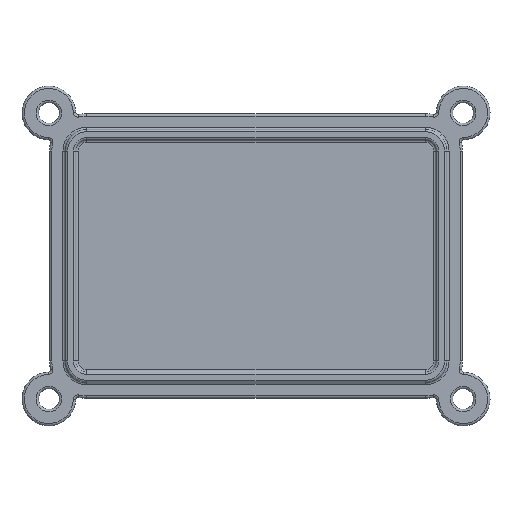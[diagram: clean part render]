
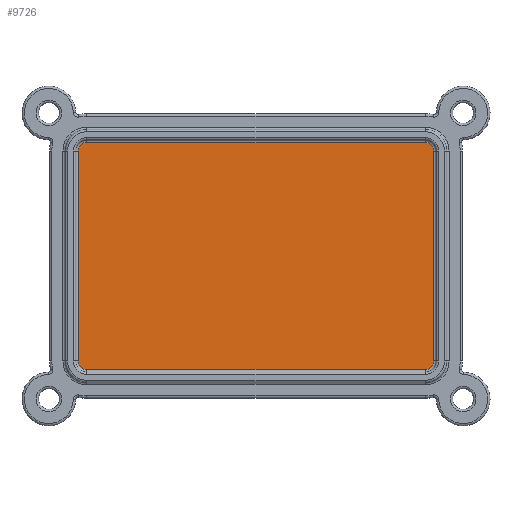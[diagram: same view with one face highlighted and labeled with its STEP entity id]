
A CAD part, front view. The second image highlights one B-rep face of the part: STEP entity #9726.
In plain terms, the highlighted planar face has unit normal (0, -1, 0).
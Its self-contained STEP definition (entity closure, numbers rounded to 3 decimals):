
#8963 = TOROIDAL_SURFACE('',#8964,1.5,0.4);
#8964 = AXIS2_PLACEMENT_3D('',#8965,#8966,#8967);
#8965 = CARTESIAN_POINT('',(10.,158.78,146.));
#8966 = DIRECTION('',(-0.,1.,0.));
#8967 = DIRECTION('',(-1.,-0.,0.));
#9015 = CYLINDRICAL_SURFACE('',#9016,0.4);
#9016 = AXIS2_PLACEMENT_3D('',#9017,#9018,#9019);
#9017 = CARTESIAN_POINT('',(8.5,158.78,110.));
#9018 = DIRECTION('',(-0.,-0.,1.));
#9019 = DIRECTION('',(-1.,0.,-0.));
#9071 = CYLINDRICAL_SURFACE('',#9072,0.4);
#9072 = AXIS2_PLACEMENT_3D('',#9073,#9074,#9075);
#9073 = CARTESIAN_POINT('',(10.,158.78,147.5));
#9074 = DIRECTION('',(1.,-0.,-0.));
#9075 = DIRECTION('',(0.,-0.,1.));
#9126 = TOROIDAL_SURFACE('',#9127,1.5,0.4);
#9127 = AXIS2_PLACEMENT_3D('',#9128,#9129,#9130);
#9128 = CARTESIAN_POINT('',(10.,158.78,110.));
#9129 = DIRECTION('',(-0.,1.,0.));
#9130 = DIRECTION('',(0.,0.,-1.));
#9181 = TOROIDAL_SURFACE('',#9182,1.5,0.4);
#9182 = AXIS2_PLACEMENT_3D('',#9183,#9184,#9185);
#9183 = CARTESIAN_POINT('',(68.,158.78,146.));
#9184 = DIRECTION('',(-0.,1.,0.));
#9185 = DIRECTION('',(0.,0.,1.));
#9235 = CYLINDRICAL_SURFACE('',#9236,0.4);
#9236 = AXIS2_PLACEMENT_3D('',#9237,#9238,#9239);
#9237 = CARTESIAN_POINT('',(68.,158.78,108.5));
#9238 = DIRECTION('',(-1.,0.,0.));
#9239 = DIRECTION('',(0.,0.,-1.));
#9287 = CYLINDRICAL_SURFACE('',#9288,0.4);
#9288 = AXIS2_PLACEMENT_3D('',#9289,#9290,#9291);
#9289 = CARTESIAN_POINT('',(69.5,158.78,146.));
#9290 = DIRECTION('',(0.,0.,-1.));
#9291 = DIRECTION('',(1.,0.,0.));
#9322 = TOROIDAL_SURFACE('',#9323,1.5,0.4);
#9323 = AXIS2_PLACEMENT_3D('',#9324,#9325,#9326);
#9324 = CARTESIAN_POINT('',(68.,158.78,110.));
#9325 = DIRECTION('',(-0.,1.,0.));
#9326 = DIRECTION('',(1.,0.,0.));
#9338 = VERTEX_POINT('',#9339);
#9339 = CARTESIAN_POINT('',(8.5,159.18,146.));
#9361 = VERTEX_POINT('',#9362);
#9362 = CARTESIAN_POINT('',(10.,159.18,147.5));
#9382 = EDGE_CURVE('',#9338,#9361,#9383,.T.);
#9383 = SURFACE_CURVE('',#9384,(#9389,#9396),.PCURVE_S1.);
#9384 = CIRCLE('',#9385,1.5);
#9385 = AXIS2_PLACEMENT_3D('',#9386,#9387,#9388);
#9386 = CARTESIAN_POINT('',(10.,159.18,146.));
#9387 = DIRECTION('',(-0.,1.,0.));
#9388 = DIRECTION('',(-1.,-0.,0.));
#9389 = PCURVE('',#8963,#9390);
#9390 = DEFINITIONAL_REPRESENTATION('',(#9391),#9395);
#9391 = LINE('',#9392,#9393);
#9392 = CARTESIAN_POINT('',(0.,1.571));
#9393 = VECTOR('',#9394,1.);
#9394 = DIRECTION('',(1.,0.));
#9395 = ( GEOMETRIC_REPRESENTATION_CONTEXT(2) 
PARAMETRIC_REPRESENTATION_CONTEXT() REPRESENTATION_CONTEXT('2D SPACE',''
  ) );
#9396 = PCURVE('',#9397,#9402);
#9397 = PLANE('',#9398);
#9398 = AXIS2_PLACEMENT_3D('',#9399,#9400,#9401);
#9399 = CARTESIAN_POINT('',(3.6,159.18,152.4));
#9400 = DIRECTION('',(0.,1.,0.));
#9401 = DIRECTION('',(1.,0.,0.));
#9402 = DEFINITIONAL_REPRESENTATION('',(#9403),#9407);
#9403 = CIRCLE('',#9404,1.5);
#9404 = AXIS2_PLACEMENT_2D('',#9405,#9406);
#9405 = CARTESIAN_POINT('',(6.4,6.4));
#9406 = DIRECTION('',(-1.,0.));
#9407 = ( GEOMETRIC_REPRESENTATION_CONTEXT(2) 
PARAMETRIC_REPRESENTATION_CONTEXT() REPRESENTATION_CONTEXT('2D SPACE',''
  ) );
#9413 = VERTEX_POINT('',#9414);
#9414 = CARTESIAN_POINT('',(8.5,159.18,110.));
#9434 = EDGE_CURVE('',#9413,#9338,#9435,.T.);
#9435 = SURFACE_CURVE('',#9436,(#9440,#9447),.PCURVE_S1.);
#9436 = LINE('',#9437,#9438);
#9437 = CARTESIAN_POINT('',(8.5,159.18,110.));
#9438 = VECTOR('',#9439,1.);
#9439 = DIRECTION('',(-0.,-0.,1.));
#9440 = PCURVE('',#9015,#9441);
#9441 = DEFINITIONAL_REPRESENTATION('',(#9442),#9446);
#9442 = LINE('',#9443,#9444);
#9443 = CARTESIAN_POINT('',(-1.571,0.));
#9444 = VECTOR('',#9445,1.);
#9445 = DIRECTION('',(-0.,1.));
#9446 = ( GEOMETRIC_REPRESENTATION_CONTEXT(2) 
PARAMETRIC_REPRESENTATION_CONTEXT() REPRESENTATION_CONTEXT('2D SPACE',''
  ) );
#9447 = PCURVE('',#9397,#9448);
#9448 = DEFINITIONAL_REPRESENTATION('',(#9449),#9453);
#9449 = LINE('',#9450,#9451);
#9450 = CARTESIAN_POINT('',(4.9,42.4));
#9451 = VECTOR('',#9452,1.);
#9452 = DIRECTION('',(0.,-1.));
#9453 = ( GEOMETRIC_REPRESENTATION_CONTEXT(2) 
PARAMETRIC_REPRESENTATION_CONTEXT() REPRESENTATION_CONTEXT('2D SPACE',''
  ) );
#9461 = EDGE_CURVE('',#9361,#9462,#9464,.T.);
#9462 = VERTEX_POINT('',#9463);
#9463 = CARTESIAN_POINT('',(68.,159.18,147.5));
#9464 = SURFACE_CURVE('',#9465,(#9469,#9476),.PCURVE_S1.);
#9465 = LINE('',#9466,#9467);
#9466 = CARTESIAN_POINT('',(10.,159.18,147.5));
#9467 = VECTOR('',#9468,1.);
#9468 = DIRECTION('',(1.,-0.,-0.));
#9469 = PCURVE('',#9071,#9470);
#9470 = DEFINITIONAL_REPRESENTATION('',(#9471),#9475);
#9471 = LINE('',#9472,#9473);
#9472 = CARTESIAN_POINT('',(-1.571,0.));
#9473 = VECTOR('',#9474,1.);
#9474 = DIRECTION('',(-0.,1.));
#9475 = ( GEOMETRIC_REPRESENTATION_CONTEXT(2) 
PARAMETRIC_REPRESENTATION_CONTEXT() REPRESENTATION_CONTEXT('2D SPACE',''
  ) );
#9476 = PCURVE('',#9397,#9477);
#9477 = DEFINITIONAL_REPRESENTATION('',(#9478),#9482);
#9478 = LINE('',#9479,#9480);
#9479 = CARTESIAN_POINT('',(6.4,4.9));
#9480 = VECTOR('',#9481,1.);
#9481 = DIRECTION('',(1.,0.));
#9482 = ( GEOMETRIC_REPRESENTATION_CONTEXT(2) 
PARAMETRIC_REPRESENTATION_CONTEXT() REPRESENTATION_CONTEXT('2D SPACE',''
  ) );
#9509 = VERTEX_POINT('',#9510);
#9510 = CARTESIAN_POINT('',(10.,159.18,108.5));
#9532 = EDGE_CURVE('',#9509,#9413,#9533,.T.);
#9533 = SURFACE_CURVE('',#9534,(#9539,#9546),.PCURVE_S1.);
#9534 = CIRCLE('',#9535,1.5);
#9535 = AXIS2_PLACEMENT_3D('',#9536,#9537,#9538);
#9536 = CARTESIAN_POINT('',(10.,159.18,110.));
#9537 = DIRECTION('',(0.,1.,0.));
#9538 = DIRECTION('',(0.,0.,-1.));
#9539 = PCURVE('',#9126,#9540);
#9540 = DEFINITIONAL_REPRESENTATION('',(#9541),#9545);
#9541 = LINE('',#9542,#9543);
#9542 = CARTESIAN_POINT('',(0.,1.571));
#9543 = VECTOR('',#9544,1.);
#9544 = DIRECTION('',(1.,0.));
#9545 = ( GEOMETRIC_REPRESENTATION_CONTEXT(2) 
PARAMETRIC_REPRESENTATION_CONTEXT() REPRESENTATION_CONTEXT('2D SPACE',''
  ) );
#9546 = PCURVE('',#9397,#9547);
#9547 = DEFINITIONAL_REPRESENTATION('',(#9548),#9552);
#9548 = CIRCLE('',#9549,1.5);
#9549 = AXIS2_PLACEMENT_2D('',#9550,#9551);
#9550 = CARTESIAN_POINT('',(6.4,42.4));
#9551 = DIRECTION('',(0.,1.));
#9552 = ( GEOMETRIC_REPRESENTATION_CONTEXT(2) 
PARAMETRIC_REPRESENTATION_CONTEXT() REPRESENTATION_CONTEXT('2D SPACE',''
  ) );
#9560 = VERTEX_POINT('',#9561);
#9561 = CARTESIAN_POINT('',(69.5,159.18,146.));
#9581 = EDGE_CURVE('',#9462,#9560,#9582,.T.);
#9582 = SURFACE_CURVE('',#9583,(#9588,#9595),.PCURVE_S1.);
#9583 = CIRCLE('',#9584,1.5);
#9584 = AXIS2_PLACEMENT_3D('',#9585,#9586,#9587);
#9585 = CARTESIAN_POINT('',(68.,159.18,146.));
#9586 = DIRECTION('',(-0.,1.,0.));
#9587 = DIRECTION('',(0.,0.,1.));
#9588 = PCURVE('',#9181,#9589);
#9589 = DEFINITIONAL_REPRESENTATION('',(#9590),#9594);
#9590 = LINE('',#9591,#9592);
#9591 = CARTESIAN_POINT('',(0.,1.571));
#9592 = VECTOR('',#9593,1.);
#9593 = DIRECTION('',(1.,0.));
#9594 = ( GEOMETRIC_REPRESENTATION_CONTEXT(2) 
PARAMETRIC_REPRESENTATION_CONTEXT() REPRESENTATION_CONTEXT('2D SPACE',''
  ) );
#9595 = PCURVE('',#9397,#9596);
#9596 = DEFINITIONAL_REPRESENTATION('',(#9597),#9601);
#9597 = CIRCLE('',#9598,1.5);
#9598 = AXIS2_PLACEMENT_2D('',#9599,#9600);
#9599 = CARTESIAN_POINT('',(64.4,6.4));
#9600 = DIRECTION('',(0.,-1.));
#9601 = ( GEOMETRIC_REPRESENTATION_CONTEXT(2) 
PARAMETRIC_REPRESENTATION_CONTEXT() REPRESENTATION_CONTEXT('2D SPACE',''
  ) );
#9607 = VERTEX_POINT('',#9608);
#9608 = CARTESIAN_POINT('',(68.,159.18,108.5));
#9628 = EDGE_CURVE('',#9607,#9509,#9629,.T.);
#9629 = SURFACE_CURVE('',#9630,(#9634,#9641),.PCURVE_S1.);
#9630 = LINE('',#9631,#9632);
#9631 = CARTESIAN_POINT('',(68.,159.18,108.5));
#9632 = VECTOR('',#9633,1.);
#9633 = DIRECTION('',(-1.,0.,0.));
#9634 = PCURVE('',#9235,#9635);
#9635 = DEFINITIONAL_REPRESENTATION('',(#9636),#9640);
#9636 = LINE('',#9637,#9638);
#9637 = CARTESIAN_POINT('',(-1.571,0.));
#9638 = VECTOR('',#9639,1.);
#9639 = DIRECTION('',(-0.,1.));
#9640 = ( GEOMETRIC_REPRESENTATION_CONTEXT(2) 
PARAMETRIC_REPRESENTATION_CONTEXT() REPRESENTATION_CONTEXT('2D SPACE',''
  ) );
#9641 = PCURVE('',#9397,#9642);
#9642 = DEFINITIONAL_REPRESENTATION('',(#9643),#9647);
#9643 = LINE('',#9644,#9645);
#9644 = CARTESIAN_POINT('',(64.4,43.9));
#9645 = VECTOR('',#9646,1.);
#9646 = DIRECTION('',(-1.,0.));
#9647 = ( GEOMETRIC_REPRESENTATION_CONTEXT(2) 
PARAMETRIC_REPRESENTATION_CONTEXT() REPRESENTATION_CONTEXT('2D SPACE',''
  ) );
#9655 = EDGE_CURVE('',#9560,#9656,#9658,.T.);
#9656 = VERTEX_POINT('',#9657);
#9657 = CARTESIAN_POINT('',(69.5,159.18,110.));
#9658 = SURFACE_CURVE('',#9659,(#9663,#9670),.PCURVE_S1.);
#9659 = LINE('',#9660,#9661);
#9660 = CARTESIAN_POINT('',(69.5,159.18,146.));
#9661 = VECTOR('',#9662,1.);
#9662 = DIRECTION('',(0.,0.,-1.));
#9663 = PCURVE('',#9287,#9664);
#9664 = DEFINITIONAL_REPRESENTATION('',(#9665),#9669);
#9665 = LINE('',#9666,#9667);
#9666 = CARTESIAN_POINT('',(-1.571,0.));
#9667 = VECTOR('',#9668,1.);
#9668 = DIRECTION('',(-0.,1.));
#9669 = ( GEOMETRIC_REPRESENTATION_CONTEXT(2) 
PARAMETRIC_REPRESENTATION_CONTEXT() REPRESENTATION_CONTEXT('2D SPACE',''
  ) );
#9670 = PCURVE('',#9397,#9671);
#9671 = DEFINITIONAL_REPRESENTATION('',(#9672),#9676);
#9672 = LINE('',#9673,#9674);
#9673 = CARTESIAN_POINT('',(65.9,6.4));
#9674 = VECTOR('',#9675,1.);
#9675 = DIRECTION('',(0.,1.));
#9676 = ( GEOMETRIC_REPRESENTATION_CONTEXT(2) 
PARAMETRIC_REPRESENTATION_CONTEXT() REPRESENTATION_CONTEXT('2D SPACE',''
  ) );
#9705 = EDGE_CURVE('',#9656,#9607,#9706,.T.);
#9706 = SURFACE_CURVE('',#9707,(#9712,#9719),.PCURVE_S1.);
#9707 = CIRCLE('',#9708,1.5);
#9708 = AXIS2_PLACEMENT_3D('',#9709,#9710,#9711);
#9709 = CARTESIAN_POINT('',(68.,159.18,110.));
#9710 = DIRECTION('',(-0.,1.,0.));
#9711 = DIRECTION('',(1.,0.,0.));
#9712 = PCURVE('',#9322,#9713);
#9713 = DEFINITIONAL_REPRESENTATION('',(#9714),#9718);
#9714 = LINE('',#9715,#9716);
#9715 = CARTESIAN_POINT('',(0.,1.571));
#9716 = VECTOR('',#9717,1.);
#9717 = DIRECTION('',(1.,0.));
#9718 = ( GEOMETRIC_REPRESENTATION_CONTEXT(2) 
PARAMETRIC_REPRESENTATION_CONTEXT() REPRESENTATION_CONTEXT('2D SPACE',''
  ) );
#9719 = PCURVE('',#9397,#9720);
#9720 = DEFINITIONAL_REPRESENTATION('',(#9721),#9725);
#9721 = CIRCLE('',#9722,1.5);
#9722 = AXIS2_PLACEMENT_2D('',#9723,#9724);
#9723 = CARTESIAN_POINT('',(64.4,42.4));
#9724 = DIRECTION('',(1.,0.));
#9725 = ( GEOMETRIC_REPRESENTATION_CONTEXT(2) 
PARAMETRIC_REPRESENTATION_CONTEXT() REPRESENTATION_CONTEXT('2D SPACE',''
  ) );
#9726 = ADVANCED_FACE('',(#9727),#9397,.F.);
#9727 = FACE_BOUND('',#9728,.F.);
#9728 = EDGE_LOOP('',(#9729,#9730,#9731,#9732,#9733,#9734,#9735,#9736));
#9729 = ORIENTED_EDGE('',*,*,#9382,.T.);
#9730 = ORIENTED_EDGE('',*,*,#9461,.T.);
#9731 = ORIENTED_EDGE('',*,*,#9581,.T.);
#9732 = ORIENTED_EDGE('',*,*,#9655,.T.);
#9733 = ORIENTED_EDGE('',*,*,#9705,.T.);
#9734 = ORIENTED_EDGE('',*,*,#9628,.T.);
#9735 = ORIENTED_EDGE('',*,*,#9532,.T.);
#9736 = ORIENTED_EDGE('',*,*,#9434,.T.);
